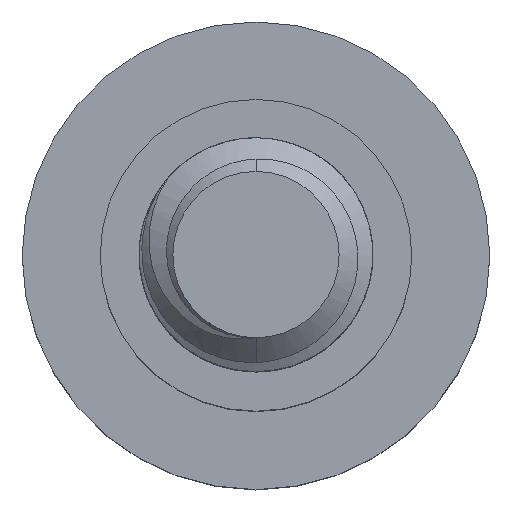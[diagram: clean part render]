
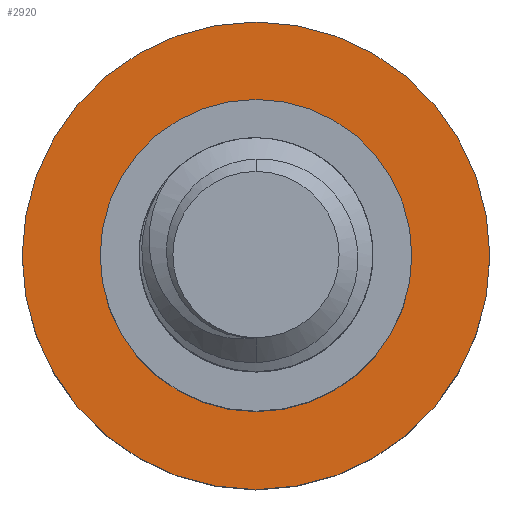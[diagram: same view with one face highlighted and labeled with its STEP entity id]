
A CAD part, top view. The second image highlights one B-rep face of the part: STEP entity #2920.
In plain terms, the highlighted planar face has unit normal (0, 0, 1).
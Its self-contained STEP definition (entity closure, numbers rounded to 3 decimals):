
#53 = DIRECTION ( 'NONE',  ( 0., 0., -1. ) ) ;
#146 = CIRCLE ( 'NONE', #1644, 6. ) ;
#168 = ORIENTED_EDGE ( 'NONE', *, *, #4025, .T. ) ;
#393 = CARTESIAN_POINT ( 'NONE',  ( 0., 0., -7. ) ) ;
#445 = VERTEX_POINT ( 'NONE', #2797 ) ;
#465 = ORIENTED_EDGE ( 'NONE', *, *, #1295, .F. ) ;
#578 = EDGE_LOOP ( 'NONE', ( #2937, #465 ) ) ;
#690 = AXIS2_PLACEMENT_3D ( 'NONE', #2884, #2458, #3767 ) ;
#728 = EDGE_CURVE ( 'NONE', #2128, #2445, #146, .T. ) ;
#860 = DIRECTION ( 'NONE',  ( -1., 0., 0. ) ) ;
#1013 = EDGE_CURVE ( 'NONE', #1968, #445, #2567, .T. ) ;
#1076 = DIRECTION ( 'NONE',  ( -1., 0., 0. ) ) ;
#1248 = AXIS2_PLACEMENT_3D ( 'NONE', #3818, #3512, #860 ) ;
#1295 = EDGE_CURVE ( 'NONE', #2445, #2128, #3523, .T. ) ;
#1324 = CARTESIAN_POINT ( 'NONE',  ( -4., 0., -7. ) ) ;
#1471 = DIRECTION ( 'NONE',  ( -1., 0., 0. ) ) ;
#1644 = AXIS2_PLACEMENT_3D ( 'NONE', #4051, #3128, #1471 ) ;
#1783 = CARTESIAN_POINT ( 'NONE',  ( -6., 0., -7. ) ) ;
#1968 = VERTEX_POINT ( 'NONE', #1324 ) ;
#2128 = VERTEX_POINT ( 'NONE', #2471 ) ;
#2147 = AXIS2_PLACEMENT_3D ( 'NONE', #2986, #3972, #1076 ) ;
#2285 = AXIS2_PLACEMENT_3D ( 'NONE', #393, #53, #3744 ) ;
#2337 = PLANE ( 'NONE',  #2285 ) ;
#2445 = VERTEX_POINT ( 'NONE', #1783 ) ;
#2458 = DIRECTION ( 'NONE',  ( 0., 0., -1. ) ) ;
#2471 = CARTESIAN_POINT ( 'NONE',  ( 6., 0., -7. ) ) ;
#2567 = CIRCLE ( 'NONE', #690, 4. ) ;
#2661 = EDGE_LOOP ( 'NONE', ( #3812, #168 ) ) ;
#2797 = CARTESIAN_POINT ( 'NONE',  ( 4., 0., -7. ) ) ;
#2884 = CARTESIAN_POINT ( 'NONE',  ( 0., 0., -7. ) ) ;
#2920 = ADVANCED_FACE ( 'NONE', ( #3374, #3978 ), #2337, .F. ) ;
#2937 = ORIENTED_EDGE ( 'NONE', *, *, #728, .F. ) ;
#2986 = CARTESIAN_POINT ( 'NONE',  ( 0., 0., -7. ) ) ;
#3124 = CIRCLE ( 'NONE', #1248, 4. ) ;
#3128 = DIRECTION ( 'NONE',  ( 0., 0., -1. ) ) ;
#3374 = FACE_BOUND ( 'NONE', #2661, .T. ) ;
#3512 = DIRECTION ( 'NONE',  ( 0., 0., -1. ) ) ;
#3523 = CIRCLE ( 'NONE', #2147, 6. ) ;
#3744 = DIRECTION ( 'NONE',  ( -1., 0., 0. ) ) ;
#3767 = DIRECTION ( 'NONE',  ( -1., 0., 0. ) ) ;
#3812 = ORIENTED_EDGE ( 'NONE', *, *, #1013, .T. ) ;
#3818 = CARTESIAN_POINT ( 'NONE',  ( 0., 0., -7. ) ) ;
#3972 = DIRECTION ( 'NONE',  ( 0., 0., -1. ) ) ;
#3978 = FACE_OUTER_BOUND ( 'NONE', #578, .T. ) ;
#4025 = EDGE_CURVE ( 'NONE', #445, #1968, #3124, .T. ) ;
#4051 = CARTESIAN_POINT ( 'NONE',  ( 0., 0., -7. ) ) ;
